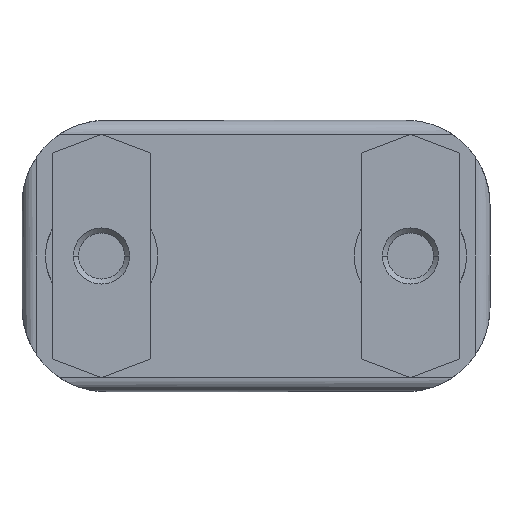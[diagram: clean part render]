
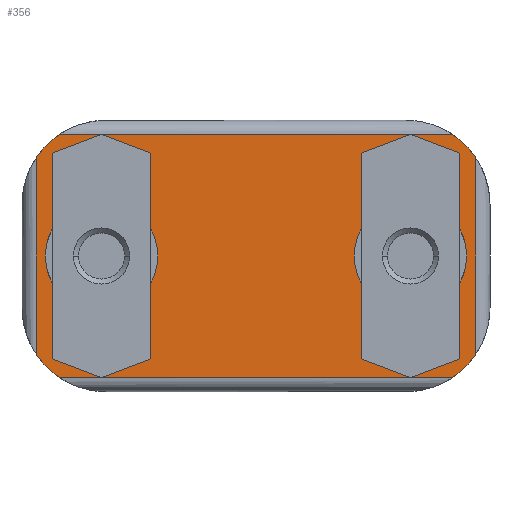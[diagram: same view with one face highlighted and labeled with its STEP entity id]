
A CAD part, front view. The second image highlights one B-rep face of the part: STEP entity #356.
In plain terms, the highlighted planar face has unit normal (0, -1, 0).
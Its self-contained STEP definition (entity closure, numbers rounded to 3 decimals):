
#356 = ADVANCED_FACE( '', ( #532, #533, #534 ), #535, .T. );
#532 = FACE_BOUND( '', #804, .T. );
#533 = FACE_BOUND( '', #805, .T. );
#534 = FACE_OUTER_BOUND( '', #806, .T. );
#535 = PLANE( '', #807 );
#804 = EDGE_LOOP( '', ( #1309, #1310 ) );
#805 = EDGE_LOOP( '', ( #1311, #1312 ) );
#806 = EDGE_LOOP( '', ( #1313, #1314, #1315, #1316, #1317, #1318, #1319, #1320 ) );
#807 = AXIS2_PLACEMENT_3D( '', #1321, #1322, #1323 );
#1309 = ORIENTED_EDGE( '', *, *, #2061, .T. );
#1310 = ORIENTED_EDGE( '', *, *, #2051, .T. );
#1311 = ORIENTED_EDGE( '', *, *, #2065, .T. );
#1312 = ORIENTED_EDGE( '', *, *, #2043, .T. );
#1313 = ORIENTED_EDGE( '', *, *, #2071, .T. );
#1314 = ORIENTED_EDGE( '', *, *, #2091, .T. );
#1315 = ORIENTED_EDGE( '', *, *, #2077, .T. );
#1316 = ORIENTED_EDGE( '', *, *, #2092, .F. );
#1317 = ORIENTED_EDGE( '', *, *, #2085, .T. );
#1318 = ORIENTED_EDGE( '', *, *, #2093, .F. );
#1319 = ORIENTED_EDGE( '', *, *, #2079, .T. );
#1320 = ORIENTED_EDGE( '', *, *, #2094, .T. );
#1321 = CARTESIAN_POINT( '', ( 23.5, -17.5, -14.5 ) );
#1322 = DIRECTION( '', ( 0., -1., 0. ) );
#1323 = DIRECTION( '', ( 1., 0., 0. ) );
#2043 = EDGE_CURVE( '', #2395, #2392, #2396, .T. );
#2051 = EDGE_CURVE( '', #2411, #2408, #2412, .T. );
#2061 = EDGE_CURVE( '', #2408, #2411, #2427, .T. );
#2065 = EDGE_CURVE( '', #2392, #2395, #2431, .T. );
#2071 = EDGE_CURVE( '', #2433, #2441, #2443, .T. );
#2077 = EDGE_CURVE( '', #2445, #2453, #2455, .T. );
#2079 = EDGE_CURVE( '', #2459, #2456, #2460, .T. );
#2085 = EDGE_CURVE( '', #2471, #2468, #2472, .T. );
#2091 = EDGE_CURVE( '', #2441, #2445, #2481, .T. );
#2092 = EDGE_CURVE( '', #2471, #2453, #2482, .T. );
#2093 = EDGE_CURVE( '', #2459, #2468, #2483, .T. );
#2094 = EDGE_CURVE( '', #2456, #2433, #2484, .T. );
#2392 = VERTEX_POINT( '', #3002 );
#2395 = VERTEX_POINT( '', #3006 );
#2396 = CIRCLE( '', #3007, 6. );
#2408 = VERTEX_POINT( '', #3022 );
#2411 = VERTEX_POINT( '', #3026 );
#2412 = CIRCLE( '', #3027, 6. );
#2427 = CIRCLE( '', #3045, 6. );
#2431 = CIRCLE( '', #3049, 6. );
#2433 = VERTEX_POINT( '', #3051 );
#2441 = VERTEX_POINT( '', #3070 );
#2443 = CIRCLE( '', #3081, 9. );
#2445 = VERTEX_POINT( '', #3083 );
#2453 = VERTEX_POINT( '', #3102 );
#2455 = CIRCLE( '', #3113, 9. );
#2456 = VERTEX_POINT( '', #3114 );
#2459 = VERTEX_POINT( '', #3126 );
#2460 = CIRCLE( '', #3127, 9. );
#2468 = VERTEX_POINT( '', #3146 );
#2471 = VERTEX_POINT( '', #3158 );
#2472 = CIRCLE( '', #3159, 9. );
#2481 = LINE( '', #3180, #3181 );
#2482 = LINE( '', #3182, #3183 );
#2483 = LINE( '', #3184, #3185 );
#2484 = LINE( '', #3186, #3187 );
#3002 = CARTESIAN_POINT( '', ( 22.5, -17.5, 0. ) );
#3006 = CARTESIAN_POINT( '', ( 10.5, -17.5, 0. ) );
#3007 = AXIS2_PLACEMENT_3D( '', #3853, #3854, #3855 );
#3022 = CARTESIAN_POINT( '', ( -10.5, -17.5, 0. ) );
#3026 = CARTESIAN_POINT( '', ( -22.5, -17.5, 0. ) );
#3027 = AXIS2_PLACEMENT_3D( '', #3869, #3870, #3871 );
#3045 = AXIS2_PLACEMENT_3D( '', #3893, #3894, #3895 );
#3049 = AXIS2_PLACEMENT_3D( '', #3905, #3906, #3907 );
#3051 = CARTESIAN_POINT( '', ( 20.975, -17.5, -13. ) );
#3070 = CARTESIAN_POINT( '', ( 23.5, -17.5, -10.475 ) );
#3081 = AXIS2_PLACEMENT_3D( '', #3913, #3914, #3915 );
#3083 = CARTESIAN_POINT( '', ( 23.5, -17.5, 10.475 ) );
#3102 = CARTESIAN_POINT( '', ( 20.975, -17.5, 13. ) );
#3113 = AXIS2_PLACEMENT_3D( '', #3921, #3922, #3923 );
#3114 = CARTESIAN_POINT( '', ( -20.975, -17.5, -13. ) );
#3126 = CARTESIAN_POINT( '', ( -23.5, -17.5, -10.475 ) );
#3127 = AXIS2_PLACEMENT_3D( '', #3924, #3925, #3926 );
#3146 = CARTESIAN_POINT( '', ( -23.5, -17.5, 10.475 ) );
#3158 = CARTESIAN_POINT( '', ( -20.975, -17.5, 13. ) );
#3159 = AXIS2_PLACEMENT_3D( '', #3932, #3933, #3934 );
#3180 = CARTESIAN_POINT( '', ( 23.5, -17.5, -14.5 ) );
#3181 = VECTOR( '', #3941, 1. );
#3182 = CARTESIAN_POINT( '', ( 0., -17.5, 13. ) );
#3183 = VECTOR( '', #3942, 1. );
#3184 = CARTESIAN_POINT( '', ( -23.5, -17.5, -14.5 ) );
#3185 = VECTOR( '', #3943, 1. );
#3186 = CARTESIAN_POINT( '', ( 0., -17.5, -13. ) );
#3187 = VECTOR( '', #3944, 1. );
#3853 = CARTESIAN_POINT( '', ( 16.5, -17.5, 0. ) );
#3854 = DIRECTION( '', ( 0., 1., 0. ) );
#3855 = DIRECTION( '', ( 1., 0., 0. ) );
#3869 = CARTESIAN_POINT( '', ( -16.5, -17.5, 0. ) );
#3870 = DIRECTION( '', ( 0., 1., 0. ) );
#3871 = DIRECTION( '', ( 1., 0., 0. ) );
#3893 = CARTESIAN_POINT( '', ( -16.5, -17.5, 0. ) );
#3894 = DIRECTION( '', ( 0., 1., 0. ) );
#3895 = DIRECTION( '', ( 1., 0., 0. ) );
#3905 = CARTESIAN_POINT( '', ( 16.5, -17.5, 0. ) );
#3906 = DIRECTION( '', ( 0., 1., 0. ) );
#3907 = DIRECTION( '', ( 1., 0., 0. ) );
#3913 = CARTESIAN_POINT( '', ( 16., -17.5, -5.5 ) );
#3914 = DIRECTION( '', ( 0., -1., 0. ) );
#3915 = DIRECTION( '', ( 0., 0., -1. ) );
#3921 = CARTESIAN_POINT( '', ( 16., -17.5, 5.5 ) );
#3922 = DIRECTION( '', ( 0., -1., 0. ) );
#3923 = DIRECTION( '', ( 1., 0., 0. ) );
#3924 = CARTESIAN_POINT( '', ( -16., -17.5, -5.5 ) );
#3925 = DIRECTION( '', ( 0., -1., 0. ) );
#3926 = DIRECTION( '', ( -1., 0., 0. ) );
#3932 = CARTESIAN_POINT( '', ( -16., -17.5, 5.5 ) );
#3933 = DIRECTION( '', ( 0., -1., 0. ) );
#3934 = DIRECTION( '', ( 0., 0., 1. ) );
#3941 = DIRECTION( '', ( 0., 0., 1. ) );
#3942 = DIRECTION( '', ( 1., 0., 0. ) );
#3943 = DIRECTION( '', ( 0., 0., 1. ) );
#3944 = DIRECTION( '', ( 1., 0., 0. ) );
